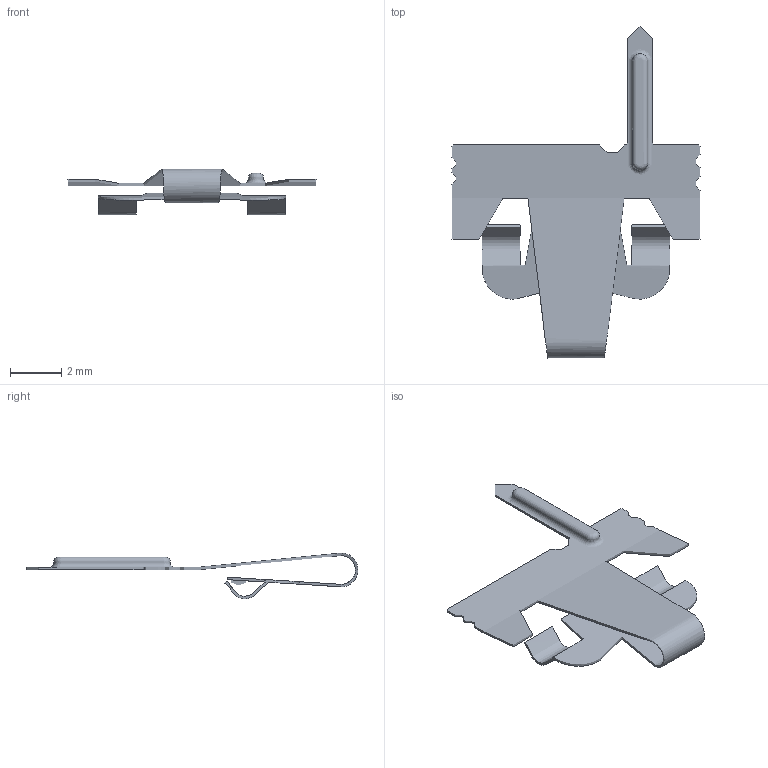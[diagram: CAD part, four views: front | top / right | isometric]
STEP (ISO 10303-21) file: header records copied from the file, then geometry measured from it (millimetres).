
FILE_DESCRIPTION(/* description */ ('STEP AP242 Edition 2','CAx-IF Rec.Pracs.---Representation and Presentation of Product Manufacturing Information (PMI)---4.0---2014-10-13','CAx-IF Rec.Pracs.---3D Tessellated Geometry---0.4---2014-09-14','2;1','CAx-IF Rec.Pracs.---User Defined Attributes---1.5---2016-08-15'),/* implementation_level */ '2;1');
FILE_NAME(/* name */ 'Assembly 1 - Part 96',/* time_stamp */ '2026-03-29T21:14:59Z',/* author */ (''),/* organization */ (''),/* preprocessor_version */ 'ST-DEVELOPER v20',/* originating_system */ 'ONSHAPE BY PTC INC, 1.212',/* authorisation */ ' ');
FILE_SCHEMA (('AP242_MANAGED_MODEL_BASED_3D_ENGINEERING_MIM_LF { 1 0 10303 442 3 1 4 }'));
Length unit declared in the file: metre
Products named in the file (1): Part 96
Bounding box: 9.65 x 12.91 x 1.78 mm (x, y, z)
Surface area: 158.8 mm2 (no closed solid volume)
Topology: 0 solids, 1 shells, 1 faces, 0 edges, 0 vertices
Faces by surface type: other 1
Entity records: 31 total; most frequent: DIRECTION 2, SHAPE_REPRESENTATION_RELATIONSHIP 1, TESSELLATED_SHAPE_REPRESENTATION 1, STYLED_ITEM 1, PRESENTATION_STYLE_ASSIGNMENT 1, SURFACE_STYLE_USAGE 1, SURFACE_SIDE_STYLE 1, SURFACE_STYLE_FILL_AREA 1
